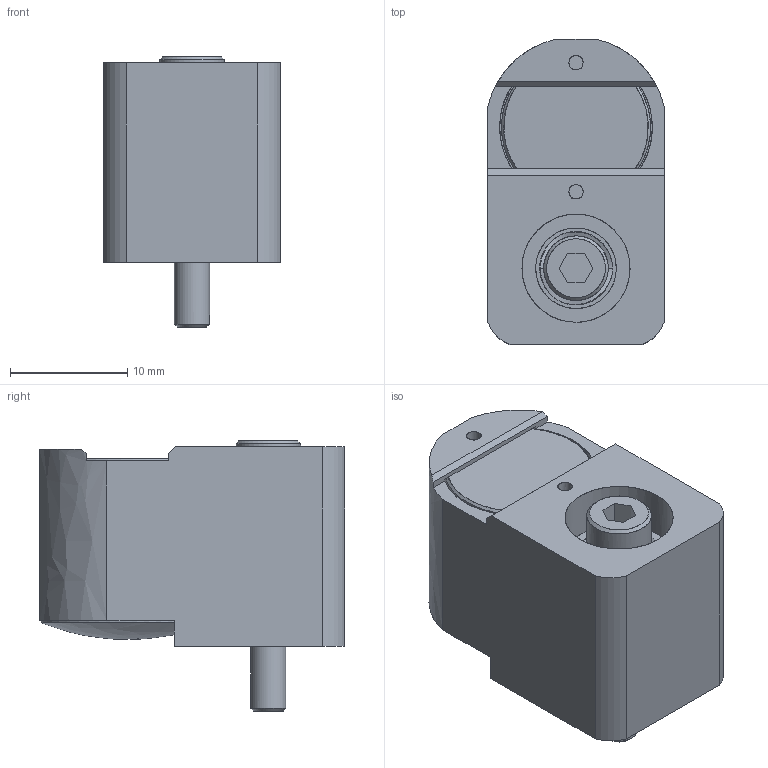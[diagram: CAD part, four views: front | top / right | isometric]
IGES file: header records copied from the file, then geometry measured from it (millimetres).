
Global section: file name: Y:\_LCPD Drawings\13.1 Lightweight Models\9904\Optics\RLR10-A3-XF  RETROREFLECTOR A3 ASSY.igs; native system: NX V6.0; preprocessor: SIEMENS UGS NX 6.0; date: 20100120.082349; units: millimetre
Bounding box: 15 x 26 x 23 mm (x, y, z)
Surface area: 4240.8 mm2 (no closed solid volume)
Topology: 0 solids, 0 shells, 77 faces, 574 edges, 552 vertices
Faces by surface type: bspline 77
